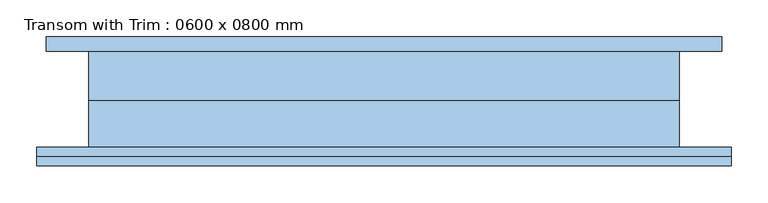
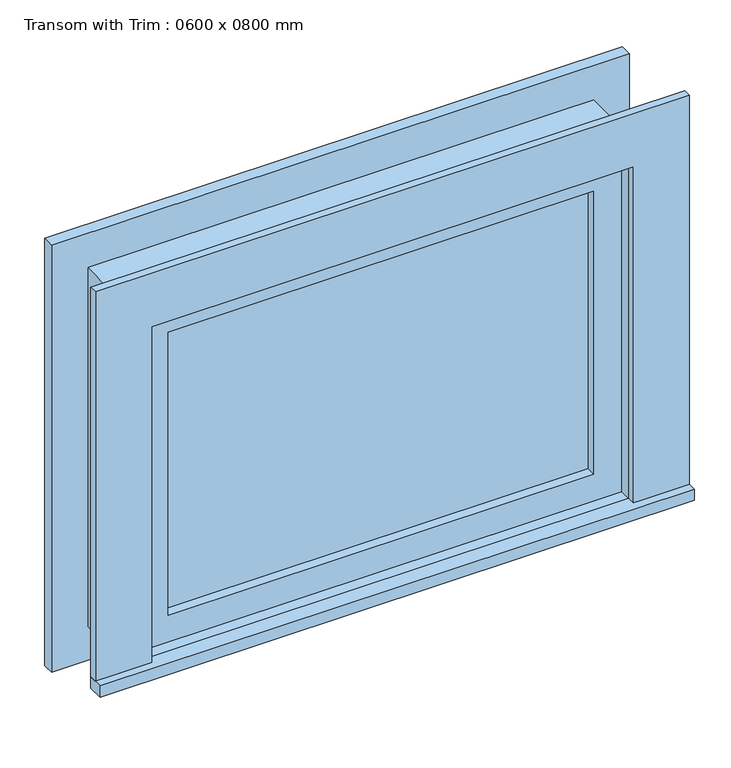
"""IFC4 building model written with IfcOpenShell, lengths in millimetres: window geometry, Transom with Trim : 0600 x 0800 mm."""

from ifc_helpers import new_model, si_unit, frame, origin, place, context, project, spatial, polyline, outline, extrude, source, transform, mapped, element, save


def transom_with_trim_0600_x_0800_mm_3df043d3(model_context):
    return source(origin(), model_context, "Body", "SweptSolid", [
        extrude(outline(polyline([(-507.95, -90.4), (-507.95, -65.0), (431.75, -65.0), (431.75, -90.4), (-507.95, -90.4)])), frame((0.0, 0.0, 2159.0), z_axis=(0.0, 0.0, 1.0), x_axis=(1.0, 0.0, 0.0)), (0.0, 0.0, 1.0), 19.05),
        extrude(outline(polyline([(2739.95, -419.05), (2739.95, 342.85), (2178.05, 342.85), (2178.05, 431.75), (2828.85, 431.75), (2828.85, -507.95), (2178.05, -507.95), (2178.05, -419.05), (2739.95, -419.05)])), frame((0.0, -77.7, 0.0), z_axis=(0.0, 1.0, 0.0), x_axis=(0.0, 0.0, 1.0)), (0.0, 0.0, 1.0), 12.7),
        extrude(outline(polyline([(2816.15, 419.05), (2816.15, -495.25), (2101.85, -495.25), (2101.85, 419.05), (2816.15, 419.05)]), holes=[polyline([(2727.25, 330.15), (2190.75, 330.15), (2190.75, -406.35), (2727.25, -406.35), (2727.25, 330.15)])]), frame((0.0, 65.0, 0.0), z_axis=(0.0, 1.0, 0.0), x_axis=(0.0, 0.0, 1.0)), (0.0, 0.0, 1.0), 19.05),
        extrude(outline(polyline([(298.4, -17.375), (298.4, -30.075), (-374.6, -30.075), (-374.6, -17.375), (298.4, -17.375)])), frame((0.0, 0.0, 2222.5), z_axis=(0.0, 0.0, 1.0), x_axis=(1.0, 0.0, 0.0)), (0.0, 0.0, 1.0), 473.0),
        extrude(outline(polyline([(2739.95, -419.05), (2178.05, -419.05), (2178.05, 342.85), (2739.95, 342.85), (2739.95, -419.05)]), holes=[polyline([(2695.5, -374.6), (2695.5, 298.4), (2222.5, 298.4), (2222.5, -374.6), (2695.5, -374.6)])]), frame((0.0, -45.95, 0.0), z_axis=(0.0, 1.0, 0.0), x_axis=(0.0, 0.0, 1.0)), (0.0, 0.0, 1.0), 44.45),
        extrude(outline(polyline([(2759.0, -438.1), (2159.0, -438.1), (2159.0, 361.9), (2759.0, 361.9), (2759.0, -438.1)]), holes=[polyline([(2727.25, -406.35), (2727.25, 330.15), (2190.75, 330.15), (2190.75, -406.35), (2727.25, -406.35)])]), frame((0.0, -1.5, 0.0), z_axis=(0.0, 1.0, 0.0), x_axis=(0.0, 0.0, 1.0)), (0.0, 0.0, 1.0), 66.5),
        extrude(outline(polyline([(2759.0, 361.9), (2759.0, -438.1), (2159.0, -438.1), (2159.0, 361.9), (2759.0, 361.9)]), holes=[polyline([(2739.95, 342.85), (2178.05, 342.85), (2178.05, -419.05), (2739.95, -419.05), (2739.95, 342.85)])]), frame((0.0, -65.0, 0.0), z_axis=(0.0, 1.0, 0.0), x_axis=(0.0, 0.0, 1.0)), (0.0, 0.0, 1.0), 63.5),
    ])


if __name__ == "__main__":
    model = new_model("IFC4")
    model_context = context("Model", 3, world=origin())
    ifc_project = project(units=[si_unit("LENGTHUNIT", "METRE", prefix="MILLI")], contexts=[model_context])
    site = spatial("IfcSite", under=ifc_project)
    building = spatial("IfcBuilding", under=site)
    placement = place(None, origin())
    transom_with_trim_0600_x_0800_mm_shape = transom_with_trim_0600_x_0800_mm_3df043d3(model_context)
    element("IfcWindow", 1, ObjectType="Transom with Trim : 0600 x 0800 mm", at=placement, inside=building, context=model_context, shape_type="MappedRepresentation", body=[
        mapped(transom_with_trim_0600_x_0800_mm_shape, transform((0.0, 0.0, 0.0), x_axis=(1.0, 0.0, 0.0), y_axis=(0.0, 1.0, 0.0), z_axis=(0.0, 0.0, 1.0))),
    ])
    save(model, "model.ifc")
